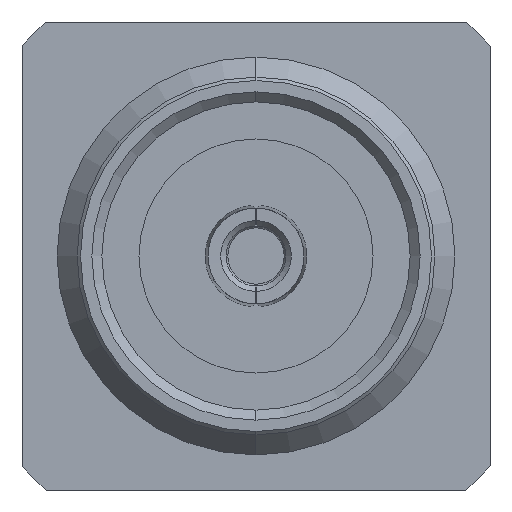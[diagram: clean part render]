
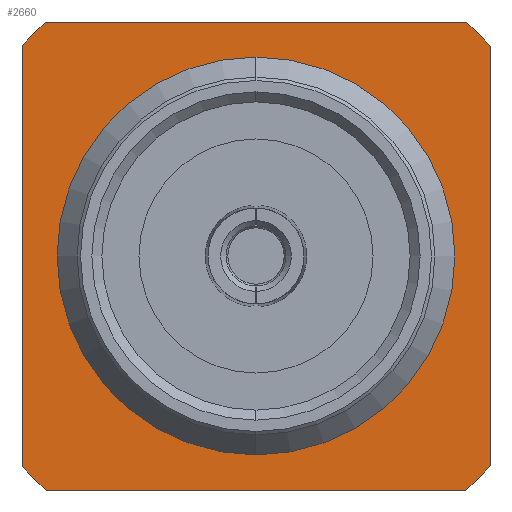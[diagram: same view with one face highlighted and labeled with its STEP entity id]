
A CAD part, left-side view. The second image highlights one B-rep face of the part: STEP entity #2660.
In plain terms, the highlighted planar face has unit normal (-1, 0, 0).
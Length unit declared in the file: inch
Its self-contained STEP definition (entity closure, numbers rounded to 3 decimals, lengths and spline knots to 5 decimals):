
#4 = AXIS2_PLACEMENT_3D ( 'NONE', #2527, #57, #527 ) ;
#49 = ORIENTED_EDGE ( 'NONE', *, *, #194, .F. ) ;
#57 = DIRECTION ( 'NONE',  ( -1., 0., 0. ) ) ;
#92 = EDGE_CURVE ( 'NONE', #2651, #971, #2663, .T. ) ;
#135 = VECTOR ( 'NONE', #2729, 39.37008 ) ;
#143 = CARTESIAN_POINT ( 'NONE',  ( -0.10827, 0.1378, -0.1235 ) ) ;
#181 = CARTESIAN_POINT ( 'NONE',  ( -0.10827, -0.1378, 0.1235 ) ) ;
#194 = EDGE_CURVE ( 'NONE', #1198, #792, #637, .T. ) ;
#212 = ORIENTED_EDGE ( 'NONE', *, *, #2311, .F. ) ;
#216 = DIRECTION ( 'NONE',  ( -1., 0., 0. ) ) ;
#249 = CARTESIAN_POINT ( 'NONE',  ( -0.10827, 0., 0. ) ) ;
#256 = CARTESIAN_POINT ( 'NONE',  ( -0.10827, -0.1378, -0.1235 ) ) ;
#257 = AXIS2_PLACEMENT_3D ( 'NONE', #1395, #2118, #2374 ) ;
#268 = PLANE ( 'NONE',  #330 ) ;
#270 = CARTESIAN_POINT ( 'NONE',  ( -0.10827, 0.1378, 0.1378 ) ) ;
#289 = VERTEX_POINT ( 'NONE', #1865 ) ;
#330 = AXIS2_PLACEMENT_3D ( 'NONE', #430, #734, #3146 ) ;
#340 = DIRECTION ( 'NONE',  ( 1., 0., 0. ) ) ;
#430 = CARTESIAN_POINT ( 'NONE',  ( -0.10827, -0.10531, 0. ) ) ;
#445 = AXIS2_PLACEMENT_3D ( 'NONE', #1561, #2438, #514 ) ;
#501 = VECTOR ( 'NONE', #2940, 39.37008 ) ;
#514 = DIRECTION ( 'NONE',  ( 0., 0., 1. ) ) ;
#527 = DIRECTION ( 'NONE',  ( 0., 0., 1. ) ) ;
#569 = AXIS2_PLACEMENT_3D ( 'NONE', #980, #1226, #1212 ) ;
#635 = DIRECTION ( 'NONE',  ( 0., 0., 1. ) ) ;
#637 = CIRCLE ( 'NONE', #445, 0.18504 ) ;
#667 = ORIENTED_EDGE ( 'NONE', *, *, #2222, .F. ) ;
#692 = LINE ( 'NONE', #3089, #1944 ) ;
#734 = DIRECTION ( 'NONE',  ( -1., 0., 0. ) ) ;
#792 = VERTEX_POINT ( 'NONE', #181 ) ;
#829 = EDGE_LOOP ( 'NONE', ( #1035, #667, #2310, #212, #1402, #2142, #49, #931 ) ) ;
#897 = LINE ( 'NONE', #2865, #1490 ) ;
#931 = ORIENTED_EDGE ( 'NONE', *, *, #2493, .F. ) ;
#971 = VERTEX_POINT ( 'NONE', #2570 ) ;
#980 = CARTESIAN_POINT ( 'NONE',  ( -0.10827, 0., 0. ) ) ;
#1035 = ORIENTED_EDGE ( 'NONE', *, *, #2797, .T. ) ;
#1039 = CARTESIAN_POINT ( 'NONE',  ( -0.10827, -0.1235, 0.1378 ) ) ;
#1116 = CARTESIAN_POINT ( 'NONE',  ( -0.10827, -0.1235, -0.1378 ) ) ;
#1198 = VERTEX_POINT ( 'NONE', #1039 ) ;
#1210 = LINE ( 'NONE', #270, #501 ) ;
#1212 = DIRECTION ( 'NONE',  ( 0., 0., 1. ) ) ;
#1226 = DIRECTION ( 'NONE',  ( 1., 0., 0. ) ) ;
#1241 = ORIENTED_EDGE ( 'NONE', *, *, #92, .T. ) ;
#1323 = VERTEX_POINT ( 'NONE', #1116 ) ;
#1358 = CIRCLE ( 'NONE', #257, 0.18504 ) ;
#1362 = VERTEX_POINT ( 'NONE', #1954 ) ;
#1395 = CARTESIAN_POINT ( 'NONE',  ( -0.10827, 0., 0. ) ) ;
#1402 = ORIENTED_EDGE ( 'NONE', *, *, #2446, .F. ) ;
#1485 = EDGE_CURVE ( 'NONE', #792, #2676, #692, .T. ) ;
#1490 = VECTOR ( 'NONE', #2885, 39.37008 ) ;
#1561 = CARTESIAN_POINT ( 'NONE',  ( -0.10827, 0., 0. ) ) ;
#1590 = CARTESIAN_POINT ( 'NONE',  ( -0.10827, 0., 0. ) ) ;
#1686 = DIRECTION ( 'NONE',  ( 0., 0., -1. ) ) ;
#1734 = EDGE_CURVE ( 'NONE', #2564, #1362, #2808, .T. ) ;
#1756 = AXIS2_PLACEMENT_3D ( 'NONE', #249, #216, #635 ) ;
#1775 = EDGE_CURVE ( 'NONE', #971, #2651, #2707, .T. ) ;
#1865 = CARTESIAN_POINT ( 'NONE',  ( -0.10827, 0.1378, 0.1235 ) ) ;
#1944 = VECTOR ( 'NONE', #1686, 39.37008 ) ;
#1954 = CARTESIAN_POINT ( 'NONE',  ( -0.10827, 0.1235, -0.1378 ) ) ;
#2051 = CARTESIAN_POINT ( 'NONE',  ( -0.10827, -0.1378, -0.1378 ) ) ;
#2118 = DIRECTION ( 'NONE',  ( 1., 0., 0. ) ) ;
#2133 = AXIS2_PLACEMENT_3D ( 'NONE', #1590, #340, #2306 ) ;
#2142 = ORIENTED_EDGE ( 'NONE', *, *, #1485, .F. ) ;
#2217 = CARTESIAN_POINT ( 'NONE',  ( -0.10827, 0., 0.10531 ) ) ;
#2222 = EDGE_CURVE ( 'NONE', #2564, #289, #1210, .T. ) ;
#2284 = FACE_BOUND ( 'NONE', #2336, .T. ) ;
#2306 = DIRECTION ( 'NONE',  ( 0., 0., 1. ) ) ;
#2310 = ORIENTED_EDGE ( 'NONE', *, *, #1734, .T. ) ;
#2311 = EDGE_CURVE ( 'NONE', #1323, #1362, #2326, .T. ) ;
#2326 = LINE ( 'NONE', #2051, #135 ) ;
#2336 = EDGE_LOOP ( 'NONE', ( #1241, #3073 ) ) ;
#2374 = DIRECTION ( 'NONE',  ( 0., 0., 1. ) ) ;
#2438 = DIRECTION ( 'NONE',  ( 1., 0., 0. ) ) ;
#2446 = EDGE_CURVE ( 'NONE', #2676, #1323, #1358, .T. ) ;
#2488 = VERTEX_POINT ( 'NONE', #2618 ) ;
#2493 = EDGE_CURVE ( 'NONE', #2488, #1198, #897, .T. ) ;
#2527 = CARTESIAN_POINT ( 'NONE',  ( -0.10827, 0., 0. ) ) ;
#2564 = VERTEX_POINT ( 'NONE', #143 ) ;
#2570 = CARTESIAN_POINT ( 'NONE',  ( -0.10827, 0., -0.10531 ) ) ;
#2600 = CIRCLE ( 'NONE', #4, 0.18504 ) ;
#2618 = CARTESIAN_POINT ( 'NONE',  ( -0.10827, 0.1235, 0.1378 ) ) ;
#2651 = VERTEX_POINT ( 'NONE', #2217 ) ;
#2660 = ADVANCED_FACE ( 'NONE', ( #3163, #2284 ), #268, .T. ) ;
#2663 = CIRCLE ( 'NONE', #569, 0.10531 ) ;
#2676 = VERTEX_POINT ( 'NONE', #256 ) ;
#2707 = CIRCLE ( 'NONE', #2133, 0.10531 ) ;
#2729 = DIRECTION ( 'NONE',  ( 0., 1., 0. ) ) ;
#2797 = EDGE_CURVE ( 'NONE', #2488, #289, #2600, .T. ) ;
#2808 = CIRCLE ( 'NONE', #1756, 0.18504 ) ;
#2865 = CARTESIAN_POINT ( 'NONE',  ( -0.10827, -0.1378, 0.1378 ) ) ;
#2885 = DIRECTION ( 'NONE',  ( 0., -1., 0. ) ) ;
#2940 = DIRECTION ( 'NONE',  ( 0., 0., 1. ) ) ;
#3073 = ORIENTED_EDGE ( 'NONE', *, *, #1775, .T. ) ;
#3089 = CARTESIAN_POINT ( 'NONE',  ( -0.10827, -0.1378, 0.1378 ) ) ;
#3146 = DIRECTION ( 'NONE',  ( 0., 0., 1. ) ) ;
#3163 = FACE_OUTER_BOUND ( 'NONE', #829, .T. ) ;
